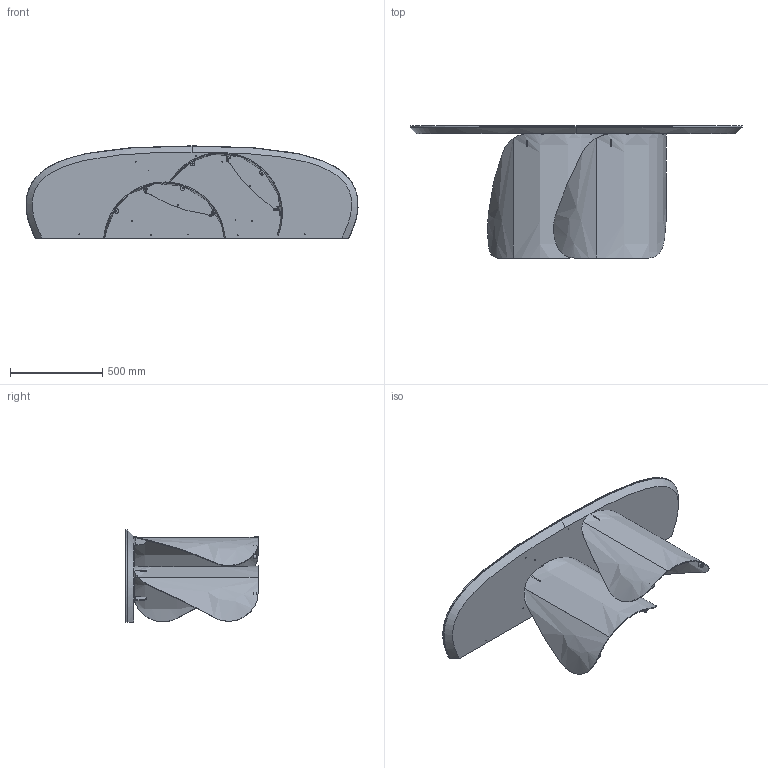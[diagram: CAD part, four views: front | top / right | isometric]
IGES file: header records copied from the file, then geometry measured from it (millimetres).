
Start section: SolidWorks IGES file using analytic representation for surfaces
Global section: file name: Y:\eforma\TECNICO\SOLIDWORKS\E-FORMA\3-CONSOLE\ONDA CONSOLE\02 parts\ON61G_Onda Console_180x50x72h_Glass Shaped.IGS; native system: SolidWorks 2022; preprocessor: SolidWorks 2022; author: eforma.tech; date: 240806.114850; units: millimetre
Bounding box: 1799.16 x 716.01 x 500 mm (x, y, z)
Volume: 37311206.6 mm3; surface area: 5633094 mm2
Topology: 10 solids, 10 shells, 282 faces, 713 edges, 431 vertices
Faces by surface type: revolution 170, plane 66, bspline 46
